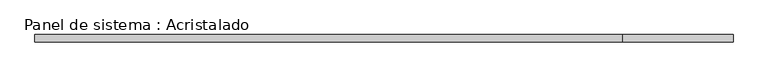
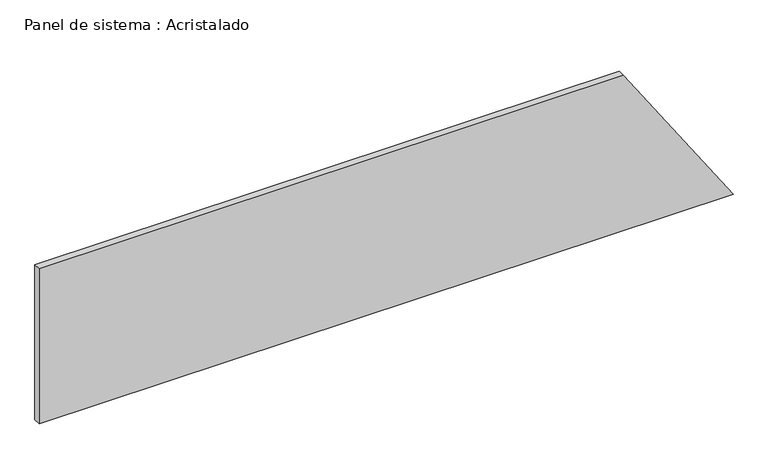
"""IFC4 building model written with IfcOpenShell, lengths in millimetres: plate geometry, Panel de sistema : Acristalado."""

from ifc_helpers import new_model, si_unit, frame, origin, place, context, project, spatial, polyline, outline, extrude, source, transform, mapped, element, save


def panel_de_sistema_acristalado_a5d02b9b(model_context):
    return source(origin(), model_context, "Body", "SweptSolid", [
        extrude(outline(polyline([(0.0, -965.6809132), (0.0, 965.6809132), (456.0, 660.3237703), (456.0, -965.6809132), (0.0, -965.6809132)])), frame((0.0, -10.0, 0.0), z_axis=(0.0, 1.0, 0.0), x_axis=(0.0, 0.0, 1.0)), (0.0, 0.0, 1.0), 20.0),
    ])


if __name__ == "__main__":
    model = new_model("IFC4")
    model_context = context("Model", 3, world=origin())
    ifc_project = project(units=[si_unit("LENGTHUNIT", "METRE", prefix="MILLI")], contexts=[model_context])
    site = spatial("IfcSite", under=ifc_project)
    building = spatial("IfcBuilding", under=site)
    placement = place(None, origin())
    panel_de_sistema_acristalado_shape = panel_de_sistema_acristalado_a5d02b9b(model_context)
    element("IfcPlate", 1, ObjectType="Panel de sistema : Acristalado", at=placement, inside=building, context=model_context, shape_type="MappedRepresentation", body=[
        mapped(panel_de_sistema_acristalado_shape, transform((0.0, 0.0, 0.0), x_axis=(1.0, 0.0, 0.0), y_axis=(0.0, 1.0, 0.0), z_axis=(0.0, 0.0, 1.0))),
    ])
    save(model, "model.ifc")
